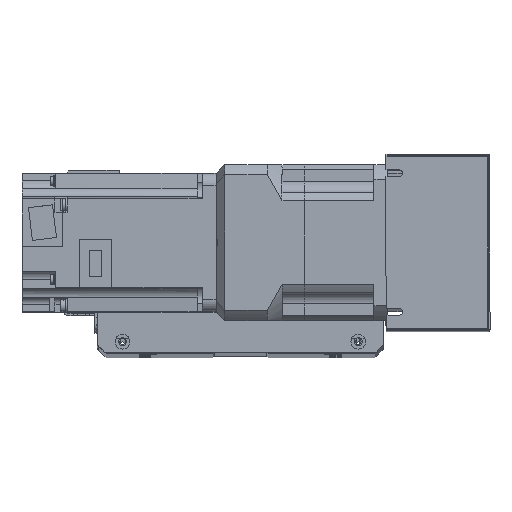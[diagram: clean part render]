
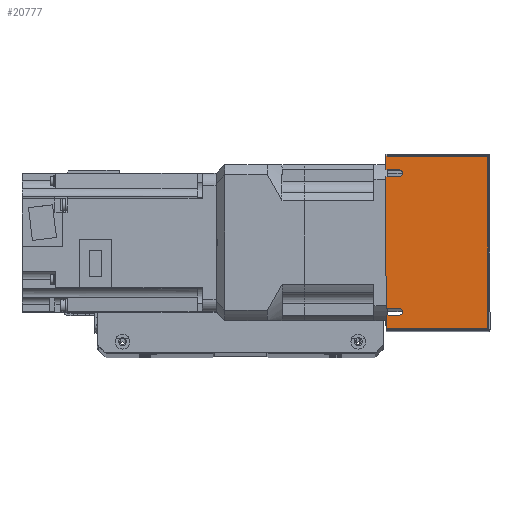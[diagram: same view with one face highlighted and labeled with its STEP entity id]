
A CAD part, top view. The second image highlights one B-rep face of the part: STEP entity #20777.
In plain terms, the highlighted planar face has unit normal (0, 0, 1) as drawn and (-1, 0, 0) by its records, which use the part's own axes.
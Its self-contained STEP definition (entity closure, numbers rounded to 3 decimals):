
#552=PLANE('',#22617);
#1640=LINE('',#32974,#3300);
#1646=LINE('',#32988,#3306);
#1658=LINE('',#33015,#3318);
#1668=LINE('',#33037,#3328);
#1676=LINE('',#33056,#3336);
#1677=LINE('',#33059,#3337);
#1678=LINE('',#33061,#3338);
#1679=LINE('',#33063,#3339);
#1680=LINE('',#33065,#3340);
#1681=LINE('',#33066,#3341);
#3300=VECTOR('',#26823,10.);
#3306=VECTOR('',#26833,10.);
#3318=VECTOR('',#26851,10.);
#3328=VECTOR('',#26865,10.);
#3336=VECTOR('',#26887,10.);
#3337=VECTOR('',#26890,10.);
#3338=VECTOR('',#26891,10.);
#3339=VECTOR('',#26892,10.);
#3340=VECTOR('',#26893,10.);
#3341=VECTOR('',#26894,10.);
#5346=FACE_OUTER_BOUND('',#6798,.T.);
#6798=EDGE_LOOP('',(#16170,#16171,#16172,#16173,#16174,#16175,#16176,#16177,
#16178,#16179,#16180,#16181));
#8236=CIRCLE('',#22613,2.);
#8239=CIRCLE('',#22618,2.);
#9673=VERTEX_POINT('',#32971);
#9674=VERTEX_POINT('',#32973);
#9679=VERTEX_POINT('',#32986);
#9680=VERTEX_POINT('',#32987);
#9691=VERTEX_POINT('',#33013);
#9692=VERTEX_POINT('',#33014);
#9701=VERTEX_POINT('',#33034);
#9702=VERTEX_POINT('',#33036);
#9707=VERTEX_POINT('',#33058);
#9708=VERTEX_POINT('',#33060);
#9709=VERTEX_POINT('',#33062);
#9710=VERTEX_POINT('',#33064);
#12025=EDGE_CURVE('',#9673,#9674,#1640,.T.);
#12031=EDGE_CURVE('',#9679,#9680,#1646,.T.);
#12043=EDGE_CURVE('',#9691,#9692,#1658,.T.);
#12053=EDGE_CURVE('',#9701,#9702,#1668,.T.);
#12056=EDGE_CURVE('',#9680,#9673,#8236,.T.);
#12065=EDGE_CURVE('',#9679,#9702,#1676,.T.);
#12066=EDGE_CURVE('',#9692,#9701,#8239,.T.);
#12067=EDGE_CURVE('',#9691,#9707,#1677,.T.);
#12068=EDGE_CURVE('',#9707,#9708,#1678,.T.);
#12069=EDGE_CURVE('',#9708,#9709,#1679,.T.);
#12070=EDGE_CURVE('',#9709,#9710,#1680,.T.);
#12071=EDGE_CURVE('',#9710,#9674,#1681,.T.);
#16170=ORIENTED_EDGE('',*,*,#12025,.F.);
#16171=ORIENTED_EDGE('',*,*,#12056,.F.);
#16172=ORIENTED_EDGE('',*,*,#12031,.F.);
#16173=ORIENTED_EDGE('',*,*,#12065,.T.);
#16174=ORIENTED_EDGE('',*,*,#12053,.F.);
#16175=ORIENTED_EDGE('',*,*,#12066,.F.);
#16176=ORIENTED_EDGE('',*,*,#12043,.F.);
#16177=ORIENTED_EDGE('',*,*,#12067,.T.);
#16178=ORIENTED_EDGE('',*,*,#12068,.T.);
#16179=ORIENTED_EDGE('',*,*,#12069,.T.);
#16180=ORIENTED_EDGE('',*,*,#12070,.T.);
#16181=ORIENTED_EDGE('',*,*,#12071,.T.);
#20777=ADVANCED_FACE('',(#5346),#552,.F.);
#22613=AXIS2_PLACEMENT_3D('',#33041,#26871,#26872);
#22617=AXIS2_PLACEMENT_3D('',#33055,#26885,#26886);
#22618=AXIS2_PLACEMENT_3D('',#33057,#26888,#26889);
#26823=DIRECTION('',(0.,0.,-1.));
#26833=DIRECTION('',(0.,0.,1.));
#26851=DIRECTION('',(0.,0.,1.));
#26865=DIRECTION('',(0.,0.,-1.));
#26871=DIRECTION('center_axis',(-1.,0.,0.));
#26872=DIRECTION('ref_axis',(0.,0.,1.));
#26885=DIRECTION('center_axis',(1.,0.,0.));
#26886=DIRECTION('ref_axis',(0.,-1.,0.));
#26887=DIRECTION('',(0.,-1.,0.));
#26888=DIRECTION('center_axis',(-1.,0.,0.));
#26889=DIRECTION('ref_axis',(0.,0.,1.));
#26890=DIRECTION('',(0.,-1.,0.));
#26891=DIRECTION('',(0.,0.,1.));
#26892=DIRECTION('',(0.,1.,0.));
#26893=DIRECTION('',(0.,0.,-1.));
#26894=DIRECTION('',(0.,-1.,0.));
#32971=CARTESIAN_POINT('',(-120.5,42.,-22.5));
#32973=CARTESIAN_POINT('',(-120.5,42.,-30.));
#32974=CARTESIAN_POINT('',(-120.5,42.,-16.304));
#32986=CARTESIAN_POINT('',(-120.5,38.,-30.));
#32987=CARTESIAN_POINT('',(-120.5,38.,-22.5));
#32988=CARTESIAN_POINT('',(-120.5,38.,-11.25));
#33013=CARTESIAN_POINT('',(-120.5,-42.,-30.));
#33014=CARTESIAN_POINT('',(-120.5,-42.,-22.5));
#33015=CARTESIAN_POINT('',(-120.5,-42.,-11.25));
#33034=CARTESIAN_POINT('',(-120.5,-38.,-22.5));
#33036=CARTESIAN_POINT('',(-120.5,-38.,-30.));
#33037=CARTESIAN_POINT('',(-120.5,-38.,-16.169));
#33041=CARTESIAN_POINT('Origin',(-120.5,40.,-22.5));
#33055=CARTESIAN_POINT('Origin',(-120.5,51.,0.));
#33056=CARTESIAN_POINT('',(-120.5,-51.,-30.));
#33057=CARTESIAN_POINT('Origin',(-120.5,-40.,-22.5));
#33058=CARTESIAN_POINT('',(-120.5,-50.,-30.));
#33059=CARTESIAN_POINT('',(-120.5,-51.,-30.));
#33060=CARTESIAN_POINT('',(-120.5,-50.,29.));
#33061=CARTESIAN_POINT('',(-120.5,-50.,0.));
#33062=CARTESIAN_POINT('',(-120.5,50.,29.));
#33063=CARTESIAN_POINT('',(-120.5,25.5,29.));
#33064=CARTESIAN_POINT('',(-120.5,50.,-30.));
#33065=CARTESIAN_POINT('',(-120.5,50.,0.));
#33066=CARTESIAN_POINT('',(-120.5,-51.,-30.));
